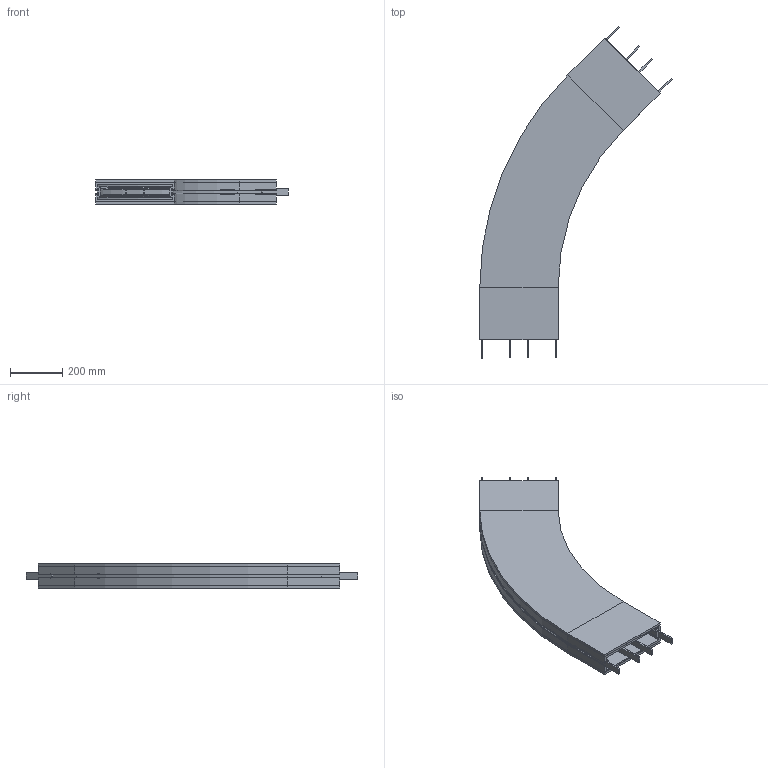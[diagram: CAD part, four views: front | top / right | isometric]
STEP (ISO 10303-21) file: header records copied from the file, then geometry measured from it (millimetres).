
FILE_DESCRIPTION (( 'STEP AP214' ), '1' );
FILE_NAME ('FBBP 45A300R1000L200L200.00.step', '2026-05-29T10:20:34', ( '' ), ( '' ), 'SwSTEP 2.0', 'SolidWorks 2024', '' );
FILE_SCHEMA (( 'AUTOMOTIVE_DESIGN' ));
Length unit declared in the file: millimetre
Products named in the file (1): FBBP 45A300R1000L200L200.00
Bounding box: 736.45 x 1270.66 x 93 mm (x, y, z)
Volume: 12968766.7 mm3; surface area: 3387513.2 mm2
Topology: 11 solids, 11 shells, 375 faces, 845 edges, 492 vertices
Faces by surface type: plane 274, cone 66, cylinder 30, torus 5
Entity records: 10191 total; most frequent: DIRECTION 1724, CARTESIAN_POINT 1713, ORIENTED_EDGE 1690, EDGE_CURVE 845, VECTOR 718, LINE 718, AXIS2_PLACEMENT_3D 503, VERTEX_POINT 492
